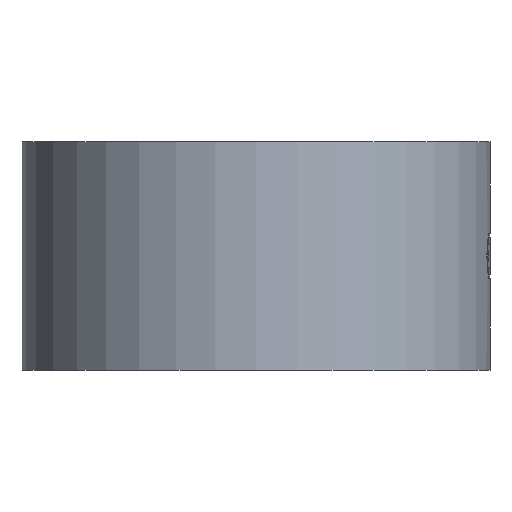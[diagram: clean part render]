
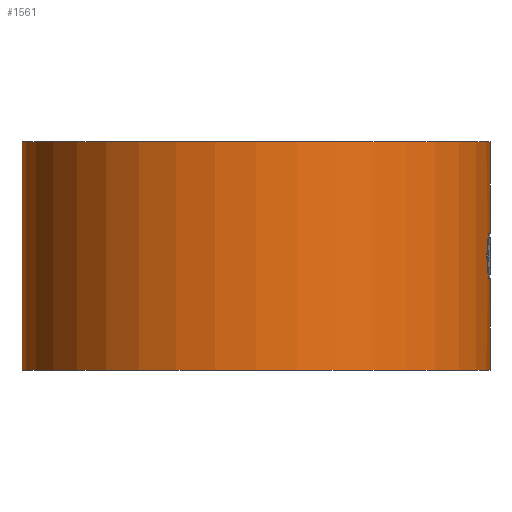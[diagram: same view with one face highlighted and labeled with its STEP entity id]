
A CAD part, front view. The second image highlights one B-rep face of the part: STEP entity #1561.
In plain terms, the highlighted cylindrical face has radius 20.5 mm (diameter 41 mm), a partial arc.
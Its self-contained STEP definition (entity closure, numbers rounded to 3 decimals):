
#39 = EDGE_CURVE ( 'NONE', #1508, #1481, #360, .T. ) ;
#43 = VERTEX_POINT ( 'NONE', #356 ) ;
#50 = EDGE_CURVE ( 'NONE', #1418, #122, #478, .T. ) ;
#51 = ORIENTED_EDGE ( 'NONE', *, *, #50, .T. ) ;
#52 = ORIENTED_EDGE ( 'NONE', *, *, #1542, .T. ) ;
#53 = ORIENTED_EDGE ( 'NONE', *, *, #184, .F. ) ;
#56 = ORIENTED_EDGE ( 'NONE', *, *, #180, .F. ) ;
#122 = VERTEX_POINT ( 'NONE', #682 ) ;
#179 = ORIENTED_EDGE ( 'NONE', *, *, #39, .F. ) ;
#180 = EDGE_CURVE ( 'NONE', #1450, #43, #584, .T. ) ;
#184 = EDGE_CURVE ( 'NONE', #43, #122, #639, .T. ) ;
#356 = CARTESIAN_POINT ( 'NONE',  ( 20.337, -2.582, -8. ) ) ;
#357 = DIRECTION ( 'NONE',  ( 1., 0., 0. ) ) ;
#358 = DIRECTION ( 'NONE',  ( 0., 0., 1. ) ) ;
#359 = AXIS2_PLACEMENT_3D ( 'NONE', #365, #358, #357 ) ;
#360 = CIRCLE ( 'NONE', #359, 20.5 ) ;
#365 = CARTESIAN_POINT ( 'NONE',  ( 0., 0., 0. ) ) ;
#409 = CARTESIAN_POINT ( 'NONE',  ( 20.214, -3.41, -10. ) ) ;
#410 = CARTESIAN_POINT ( 'NONE',  ( 20.259, -3.147, -10.634 ) ) ;
#411 = CARTESIAN_POINT ( 'NONE',  ( 20.3, -2.871, -11.301 ) ) ;
#412 = CARTESIAN_POINT ( 'NONE',  ( 20.337, -2.582, -12. ) ) ;
#478 = B_SPLINE_CURVE_WITH_KNOTS ( 'NONE', 3,
 ( #412, #411, #410, #409 ),
 .UNSPECIFIED., .F., .F.,
 ( 4, 4 ),
 ( 0., 1. ),
 .UNSPECIFIED. ) ;
#569 = CARTESIAN_POINT ( 'NONE',  ( 20.214, -3.41, -10. ) ) ;
#570 = CARTESIAN_POINT ( 'NONE',  ( 20.261, -3.135, -9.335 ) ) ;
#571 = CARTESIAN_POINT ( 'NONE',  ( 20.302, -2.859, -8.669 ) ) ;
#572 = CARTESIAN_POINT ( 'NONE',  ( 20.337, -2.582, -8. ) ) ;
#580 = DIRECTION ( 'NONE',  ( -1., 0., 0. ) ) ;
#581 = DIRECTION ( 'NONE',  ( 0., 0., -1. ) ) ;
#582 = CARTESIAN_POINT ( 'NONE',  ( 0., 0., -8. ) ) ;
#583 = AXIS2_PLACEMENT_3D ( 'NONE', #582, #581, #580 ) ;
#584 = CIRCLE ( 'NONE', #583, 20.5 ) ;
#639 = B_SPLINE_CURVE_WITH_KNOTS ( 'NONE', 3,
 ( #572, #571, #570, #569 ),
 .UNSPECIFIED., .F., .F.,
 ( 4, 4 ),
 ( 0., 1. ),
 .UNSPECIFIED. ) ;
#682 = CARTESIAN_POINT ( 'NONE',  ( 20.214, -3.41, -10. ) ) ;
#941 = DIRECTION ( 'NONE',  ( 0., 0., 1. ) ) ;
#942 = AXIS2_PLACEMENT_3D ( 'NONE', #1015, #941, #967 ) ;
#943 = CIRCLE ( 'NONE', #942, 20.5 ) ;
#944 = CARTESIAN_POINT ( 'NONE',  ( 20.337, -2.582, -12. ) ) ;
#967 = DIRECTION ( 'NONE',  ( 1., 0., 0. ) ) ;
#1015 = CARTESIAN_POINT ( 'NONE',  ( 0., 0., -12. ) ) ;
#1026 = CARTESIAN_POINT ( 'NONE',  ( 20.5, 0., -8. ) ) ;
#1028 = CARTESIAN_POINT ( 'NONE',  ( 20.5, 0., -20. ) ) ;
#1120 = DIRECTION ( 'NONE',  ( 1., 0., 0. ) ) ;
#1121 = DIRECTION ( 'NONE',  ( 0., 0., 1. ) ) ;
#1122 = AXIS2_PLACEMENT_3D ( 'NONE', #1128, #1121, #1120 ) ;
#1123 = CIRCLE ( 'NONE', #1122, 20.5 ) ;
#1128 = CARTESIAN_POINT ( 'NONE',  ( 0., 0., -20. ) ) ;
#1144 = LINE ( 'NONE', #1179, #1220 ) ;
#1145 = CARTESIAN_POINT ( 'NONE',  ( 20.5, 0., 0. ) ) ;
#1146 = DIRECTION ( 'NONE',  ( 0., 0., 1. ) ) ;
#1147 = VECTOR ( 'NONE', #1146, 1000. ) ;
#1148 = CARTESIAN_POINT ( 'NONE',  ( 20.5, 0., 0. ) ) ;
#1156 = CARTESIAN_POINT ( 'NONE',  ( -20.5, 0., 0. ) ) ;
#1178 = DIRECTION ( 'NONE',  ( 0., 0., 1. ) ) ;
#1179 = CARTESIAN_POINT ( 'NONE',  ( -20.5, 0., 0. ) ) ;
#1205 = CARTESIAN_POINT ( 'NONE',  ( 20.5, 0., -12. ) ) ;
#1220 = VECTOR ( 'NONE', #1178, 1000. ) ;
#1267 = LINE ( 'NONE', #1148, #1147 ) ;
#1268 = CARTESIAN_POINT ( 'NONE',  ( -20.5, 0., -20. ) ) ;
#1278 = DIRECTION ( 'NONE',  ( 0., 0., 1. ) ) ;
#1279 = VECTOR ( 'NONE', #1278, 1000. ) ;
#1280 = CARTESIAN_POINT ( 'NONE',  ( 20.5, 0., 0. ) ) ;
#1281 = LINE ( 'NONE', #1280, #1279 ) ;
#1344 = DIRECTION ( 'NONE',  ( 1., 0., 0. ) ) ;
#1345 = DIRECTION ( 'NONE',  ( 0., 0., 1. ) ) ;
#1348 = CYLINDRICAL_SURFACE ( 'NONE', #1381, 20.5 ) ;
#1380 = CARTESIAN_POINT ( 'NONE',  ( 0., 0., 0. ) ) ;
#1381 = AXIS2_PLACEMENT_3D ( 'NONE', #1380, #1345, #1344 ) ;
#1396 = FACE_OUTER_BOUND ( 'NONE', #1459, .T. ) ;
#1415 = ORIENTED_EDGE ( 'NONE', *, *, #1479, .T. ) ;
#1416 = ORIENTED_EDGE ( 'NONE', *, *, #1417, .F. ) ;
#1417 = EDGE_CURVE ( 'NONE', #1418, #1498, #943, .T. ) ;
#1418 = VERTEX_POINT ( 'NONE', #944 ) ;
#1447 = VERTEX_POINT ( 'NONE', #1028 ) ;
#1450 = VERTEX_POINT ( 'NONE', #1026 ) ;
#1459 = EDGE_LOOP ( 'NONE', ( #1462, #1463, #1415, #1416, #51, #53, #56, #52, #179 ) ) ;
#1462 = ORIENTED_EDGE ( 'NONE', *, *, #1482, .F. ) ;
#1463 = ORIENTED_EDGE ( 'NONE', *, *, #1555, .T. ) ;
#1476 = VERTEX_POINT ( 'NONE', #1268 ) ;
#1479 = EDGE_CURVE ( 'NONE', #1447, #1498, #1267, .T. ) ;
#1481 = VERTEX_POINT ( 'NONE', #1145 ) ;
#1482 = EDGE_CURVE ( 'NONE', #1476, #1508, #1144, .T. ) ;
#1498 = VERTEX_POINT ( 'NONE', #1205 ) ;
#1508 = VERTEX_POINT ( 'NONE', #1156 ) ;
#1542 = EDGE_CURVE ( 'NONE', #1450, #1481, #1281, .T. ) ;
#1555 = EDGE_CURVE ( 'NONE', #1476, #1447, #1123, .T. ) ;
#1561 = ADVANCED_FACE ( 'NONE', ( #1396 ), #1348, .T. ) ;
